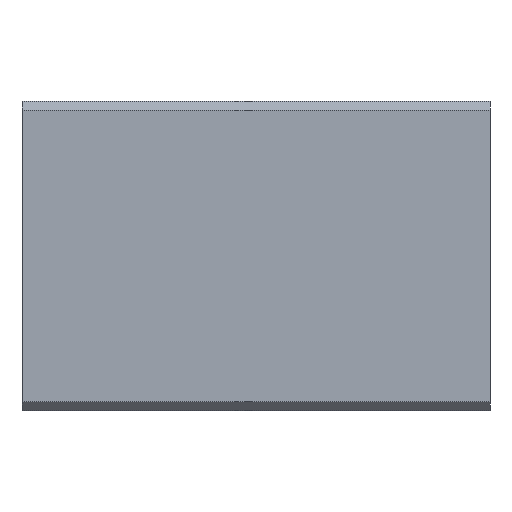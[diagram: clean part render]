
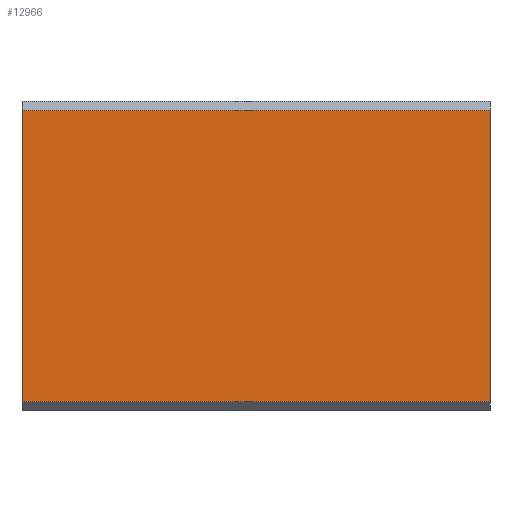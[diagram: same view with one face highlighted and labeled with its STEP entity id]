
A CAD part, front view. The second image highlights one B-rep face of the part: STEP entity #12966.
In plain terms, the highlighted planar face has unit normal (0, -1, 0).
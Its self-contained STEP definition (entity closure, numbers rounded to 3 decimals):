
#1187 = CARTESIAN_POINT ( 'NONE',  ( 0., -17.5, 16.5 ) ) ;
#1305 = ORIENTED_EDGE ( 'NONE', *, *, #3698, .T. ) ;
#1724 = LINE ( 'NONE', #2578, #7854 ) ;
#2578 = CARTESIAN_POINT ( 'NONE',  ( 53., -17.5, 16.5 ) ) ;
#2611 = DIRECTION ( 'NONE',  ( 0., 1., 0. ) ) ;
#2723 = ORIENTED_EDGE ( 'NONE', *, *, #5974, .T. ) ;
#3075 = EDGE_CURVE ( 'NONE', #4448, #11598, #11754, .T. ) ;
#3698 = EDGE_CURVE ( 'NONE', #11598, #14285, #6017, .T. ) ;
#4435 = CARTESIAN_POINT ( 'NONE',  ( 53., -17.5, 17.5 ) ) ;
#4448 = VERTEX_POINT ( 'NONE', #1187 ) ;
#4532 = CARTESIAN_POINT ( 'NONE',  ( 53., -17.5, -16.5 ) ) ;
#4851 = ORIENTED_EDGE ( 'NONE', *, *, #5109, .F. ) ;
#5109 = EDGE_CURVE ( 'NONE', #14178, #14285, #11670, .T. ) ;
#5534 = CARTESIAN_POINT ( 'NONE',  ( 53., -17.5, -16.5 ) ) ;
#5790 = DIRECTION ( 'NONE',  ( 0., 0., -1. ) ) ;
#5974 = EDGE_CURVE ( 'NONE', #14178, #4448, #1724, .T. ) ;
#6017 = LINE ( 'NONE', #5534, #6202 ) ;
#6202 = VECTOR ( 'NONE', #12437, 1000. ) ;
#6760 = ORIENTED_EDGE ( 'NONE', *, *, #3075, .T. ) ;
#7854 = VECTOR ( 'NONE', #15260, 1000. ) ;
#9394 = CARTESIAN_POINT ( 'NONE',  ( 0., -17.5, -16.5 ) ) ;
#9860 = VECTOR ( 'NONE', #5790, 1000. ) ;
#10200 = CARTESIAN_POINT ( 'NONE',  ( 53., -17.5, 17.5 ) ) ;
#11485 = DIRECTION ( 'NONE',  ( 0., 0., 1. ) ) ;
#11598 = VERTEX_POINT ( 'NONE', #9394 ) ;
#11670 = LINE ( 'NONE', #4435, #9860 ) ;
#11754 = LINE ( 'NONE', #14409, #15497 ) ;
#11947 = CARTESIAN_POINT ( 'NONE',  ( 53., -17.5, 16.5 ) ) ;
#12437 = DIRECTION ( 'NONE',  ( 1., 0., 0. ) ) ;
#12713 = PLANE ( 'NONE',  #14832 ) ;
#12966 = ADVANCED_FACE ( 'NONE', ( #14446 ), #12713, .F. ) ;
#14157 = EDGE_LOOP ( 'NONE', ( #6760, #1305, #4851, #2723 ) ) ;
#14178 = VERTEX_POINT ( 'NONE', #11947 ) ;
#14285 = VERTEX_POINT ( 'NONE', #4532 ) ;
#14409 = CARTESIAN_POINT ( 'NONE',  ( 0., -17.5, 17.5 ) ) ;
#14446 = FACE_OUTER_BOUND ( 'NONE', #14157, .T. ) ;
#14791 = DIRECTION ( 'NONE',  ( 0., 0., -1. ) ) ;
#14832 = AXIS2_PLACEMENT_3D ( 'NONE', #10200, #2611, #11485 ) ;
#15260 = DIRECTION ( 'NONE',  ( -1., 0., 0. ) ) ;
#15497 = VECTOR ( 'NONE', #14791, 1000. ) ;
